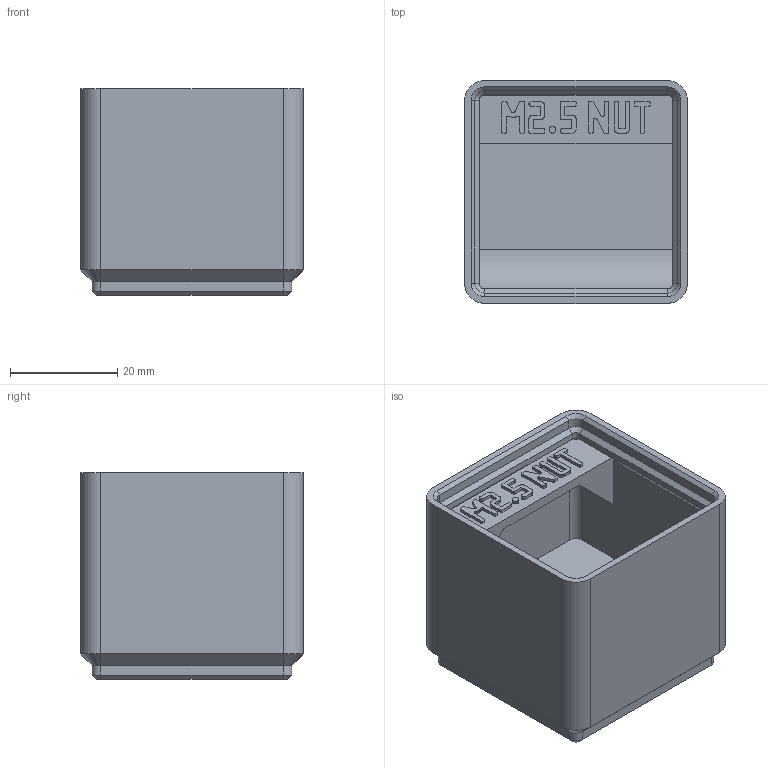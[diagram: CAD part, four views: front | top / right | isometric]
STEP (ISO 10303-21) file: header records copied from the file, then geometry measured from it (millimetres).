
FILE_DESCRIPTION(('Open CASCADE Model'),'2;1');
FILE_NAME('Open CASCADE Shape Model','2026-11-03T10:36:04',('Author'),( 'Open CASCADE'),'Open CASCADE STEP processor 8.0','build123d', 'Unknown');
FILE_SCHEMA(('AUTOMOTIVE_DESIGN { 1 0 10303 214 1 1 1 1 }'));
Length unit declared in the file: millimetre
Products named in the file (1): COMPOUND
Bounding box: 41.5 x 41.5 x 38.55 mm (x, y, z)
Volume: 27581.3 mm3; surface area: 13886.1 mm2
Topology: 1 solids, 1 shells, 697 faces, 2001 edges, 1314 vertices
Faces by surface type: plane 656, cylinder 21, cone 20
Entity records: 47181 total; most frequent: CARTESIAN_POINT 9759, DIRECTION 6016, LINE 4505, VECTOR 4505, ORIENTED_EDGE 4002, PCURVE 4002, DEFINITIONAL_REPRESENTATION 4002, EDGE_CURVE 2001
